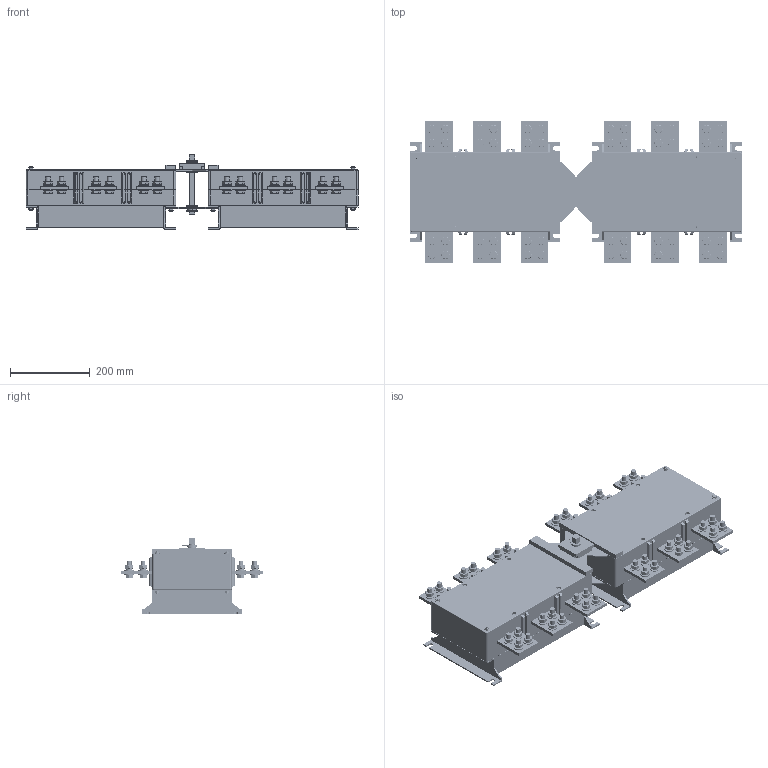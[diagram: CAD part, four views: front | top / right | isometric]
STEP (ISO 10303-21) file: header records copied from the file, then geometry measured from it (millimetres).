
FILE_DESCRIPTION((''),'2;1');
FILE_NAME('1250-3S_ASM','2021-05-07T',('wangpeng'),(''),'PRO/ENGINEER BY PARAMETRIC TECHNOLOGY CORPORATION, 2009460','PRO/ENGINEER BY PARAMETRIC TECHNOLOGY CORPORATION, 2009460','');
FILE_SCHEMA(('AUTOMOTIVE_DESIGN { 1 0 10303 214 1 1 1 1 }'));
Length unit declared in the file: millimetre
Products named in the file (23): SB-1250-3S; ZB-1250-3S; XB-1250-3S; CT-1250-3S; YB-1250-3S; ZCB-1250-3S; DB-1250-3S; DBX-1250-3S; ZCBX-1250-3S; LGM6; LMM6; 0LGM6; PDQ6; PDQ12; LSM12; TDQ12; LMM12; ZSJNH40; FKSNH40; ZSJTNH40; ZZ-1250-3S; DQM8; 1250-3S_ASM
Assembly tree (322 placements, depth 2):
  1250-3S_ASM
    SB-1250-3S  x2
    ZB-1250-3S  x2
    XB-1250-3S  x2
    CT-1250-3S  x6
    YB-1250-3S  x2
    ZCB-1250-3S
    DB-1250-3S  x2
    DBX-1250-3S  x2
    ZCBX-1250-3S
    LGM6  x8
    LMM6  x28
    0LGM6  x8
    PDQ6  x4
    PDQ12  x102
    LSM12  x48
    TDQ12  x48
    LMM12  x48
    ZSJNH40
    FKSNH40  x3
    ZSJTNH40
    ZZ-1250-3S
    DQM8  x2
Bounding box: 835 x 356 x 189 mm (x, y, z)
Volume: 22144758.9 mm3; surface area: 2215687.9 mm2
Topology: 322 solids, 322 shells, 4962 faces, 11207 edges, 6964 vertices
Faces by surface type: plane 2141, cylinder 1497, cone 1200, sphere 76, bspline 32, torus 16
Entity records: 30034 total; most frequent: CARTESIAN_POINT 6822, DIRECTION 4556, ORIENTED_EDGE 3854, EDGE_CURVE 1927, AXIS2_PLACEMENT_3D 1678, VERTEX_POINT 1221, VECTOR 1200, LINE 1200
